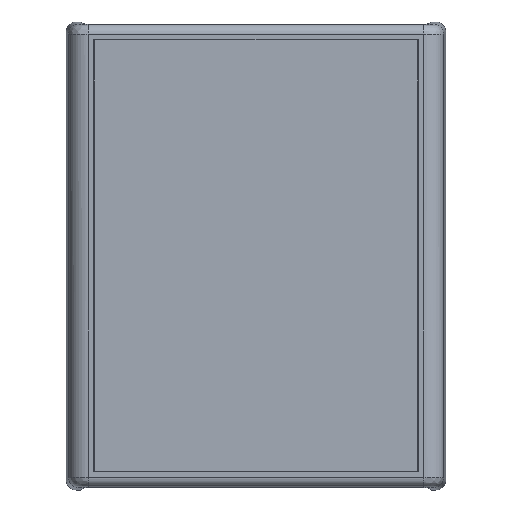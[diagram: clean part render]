
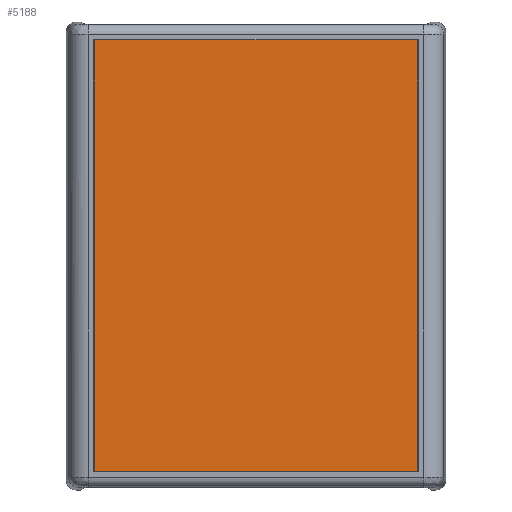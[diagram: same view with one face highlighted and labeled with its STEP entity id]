
A CAD part, top view. The second image highlights one B-rep face of the part: STEP entity #5188.
In plain terms, the highlighted planar face has unit normal (0, 0, 1) as drawn and (0, 0, -1) by its records, which use the part's own axes.
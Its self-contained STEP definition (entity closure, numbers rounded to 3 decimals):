
#493=PLANE('',#5588);
#738=FACE_OUTER_BOUND('',#1097,.T.);
#1097=EDGE_LOOP('',(#4191,#4192,#4193,#4194));
#1499=LINE('',#8665,#1955);
#1503=LINE('',#8673,#1959);
#1506=LINE('',#8679,#1962);
#1509=LINE('',#8684,#1965);
#1955=VECTOR('',#6522,87.965);
#1959=VECTOR('',#6528,65.965);
#1962=VECTOR('',#6533,87.965);
#1965=VECTOR('',#6538,65.965);
#2519=VERTEX_POINT('',#8663);
#2520=VERTEX_POINT('',#8664);
#2523=VERTEX_POINT('',#8672);
#2525=VERTEX_POINT('',#8678);
#3121=EDGE_CURVE('',#2519,#2520,#1499,.T.);
#3125=EDGE_CURVE('',#2520,#2523,#1503,.T.);
#3128=EDGE_CURVE('',#2523,#2525,#1506,.T.);
#3131=EDGE_CURVE('',#2525,#2519,#1509,.T.);
#4191=ORIENTED_EDGE('',*,*,#3121,.T.);
#4192=ORIENTED_EDGE('',*,*,#3125,.T.);
#4193=ORIENTED_EDGE('',*,*,#3128,.T.);
#4194=ORIENTED_EDGE('',*,*,#3131,.T.);
#5188=ADVANCED_FACE('',(#738),#493,.F.);
#5588=AXIS2_PLACEMENT_3D('',#8686,#6540,#6541);
#6522=DIRECTION('',(0.,1.,0.));
#6528=DIRECTION('',(1.,0.,0.));
#6533=DIRECTION('',(0.,-1.,0.));
#6538=DIRECTION('',(-1.,0.,0.));
#6540=DIRECTION('center_axis',(0.,0.,1.));
#6541=DIRECTION('ref_axis',(1.,0.,0.));
#8663=CARTESIAN_POINT('',(-32.983,-43.983,1.));
#8664=CARTESIAN_POINT('',(-32.983,43.983,1.));
#8665=CARTESIAN_POINT('',(-32.983,44.,1.));
#8672=CARTESIAN_POINT('',(32.983,43.983,1.));
#8673=CARTESIAN_POINT('',(33.,43.983,1.));
#8678=CARTESIAN_POINT('',(32.983,-43.983,1.));
#8679=CARTESIAN_POINT('',(32.983,-44.,1.));
#8684=CARTESIAN_POINT('',(-33.,-43.983,1.));
#8686=CARTESIAN_POINT('Origin',(0.,0.,
1.));
